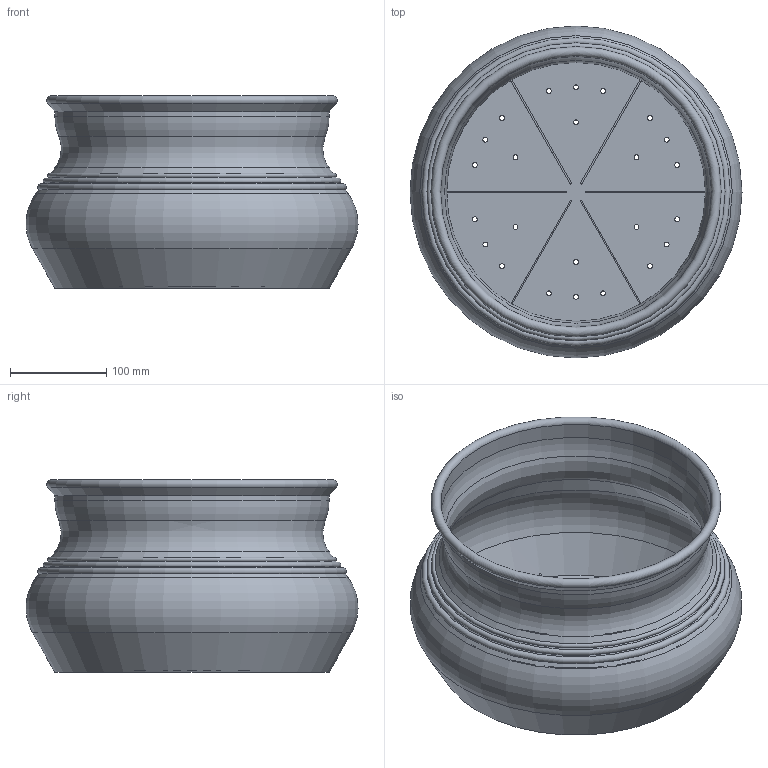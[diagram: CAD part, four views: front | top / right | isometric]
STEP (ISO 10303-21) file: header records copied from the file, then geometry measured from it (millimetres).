
FILE_DESCRIPTION(/* description */ (''),/* implementation_level */ '2;1');
FILE_NAME(/* name */ 'LR2406-S17-H200-D350_step.step',/* time_stamp */ '2024-02-01T11:03:52+01:00',/* author */ (''),/* organization */ (''),/* preprocessor_version */ 'ST-DEVELOPER v20',/* originating_system */ 'Autodesk Translation Framework v12.20.1.177',/* authorisation */ '');
FILE_SCHEMA (('AUTOMOTIVE_DESIGN { 1 0 10303 214 3 1 1 }'));
Length unit declared in the file: millimetre
Products named in the file (1): LR2406-S17-H200-D350
Bounding box: 344.7 x 344.7 x 200 mm (x, y, z)
Volume: 589111 mm3; surface area: 564013.3 mm2
Topology: 1 solids, 1 shells, 70 faces, 185 edges, 117 vertices
Faces by surface type: cylinder 32, plane 20, torus 10, cone 8
Full cylindrical faces by diameter (mm): 5 x24, 281.36 x1, 284.72 x1
Entity records: 2336 total; most frequent: DIRECTION 430, CARTESIAN_POINT 373, ORIENTED_EDGE 370, EDGE_CURVE 185, AXIS2_PLACEMENT_3D 174, EDGE_LOOP 118, VERTEX_POINT 117, CIRCLE 103
